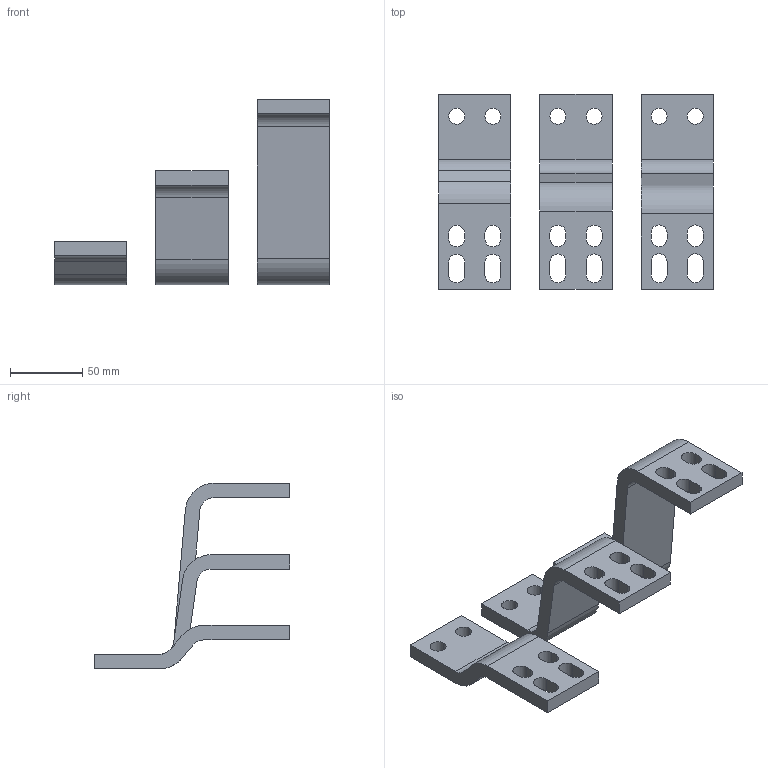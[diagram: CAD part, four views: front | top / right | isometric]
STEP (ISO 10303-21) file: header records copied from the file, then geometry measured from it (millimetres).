
FILE_DESCRIPTION (( 'STEP AP214' ), '1' );
FILE_NAME ('04711.STEP', '2017-12-29T08:43:29', ( '' ), ( '' ), 'SwSTEP 2.0', 'SolidWorks 2015', '' );
FILE_SCHEMA (( 'AUTOMOTIVE_DESIGN' ));
Length unit declared in the file: millimetre
Products named in the file (4): 04711-1; 04711; 04711-2; 04711-3
Assembly tree (3 placements, depth 2):
  04711
    04711-1
    04711-2
    04711-3
Bounding box: 190 x 135 x 128.5 mm (x, y, z)
Volume: 254908.7 mm3; surface area: 73008.9 mm2
Topology: 3 solids, 3 shells, 106 faces, 300 edges, 200 vertices
Faces by surface type: plane 54, cylinder 52
Entity records: 3694 total; most frequent: DIRECTION 628, CARTESIAN_POINT 612, ORIENTED_EDGE 600, EDGE_CURVE 300, AXIS2_PLACEMENT_3D 216, VERTEX_POINT 200, VECTOR 196, LINE 196
